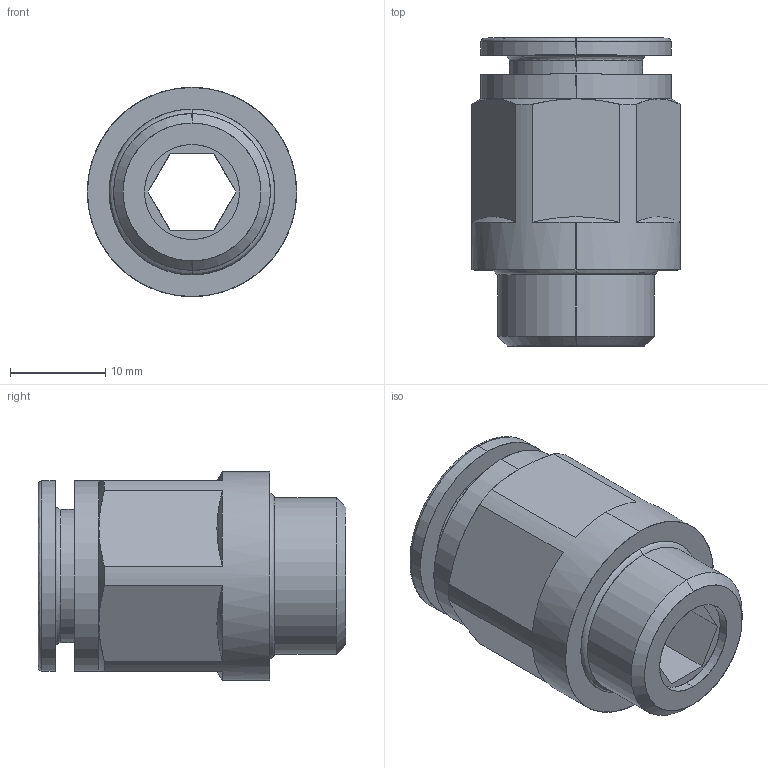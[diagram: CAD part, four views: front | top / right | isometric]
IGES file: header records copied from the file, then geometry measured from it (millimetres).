
Start section: SolidWorks IGES file using analytic representation for surfaces
Global section: file name: K:\Disegni Esecutivi\SERIE 54000\54000-Assiemi\54020\Iges\5402000011A.IGS; native system: SolidWorks 2020; preprocessor: SolidWorks 2020; author: CAD13; date: 240917.145521; units: millimetre
Bounding box: 22 x 32.4 x 22 mm (x, y, z)
Surface area: 4004.6 mm2 (no closed solid volume)
Topology: 0 solids, 0 shells, 153 faces, 1567 edges, 1567 vertices
Faces by surface type: bspline 120, revolution 33
